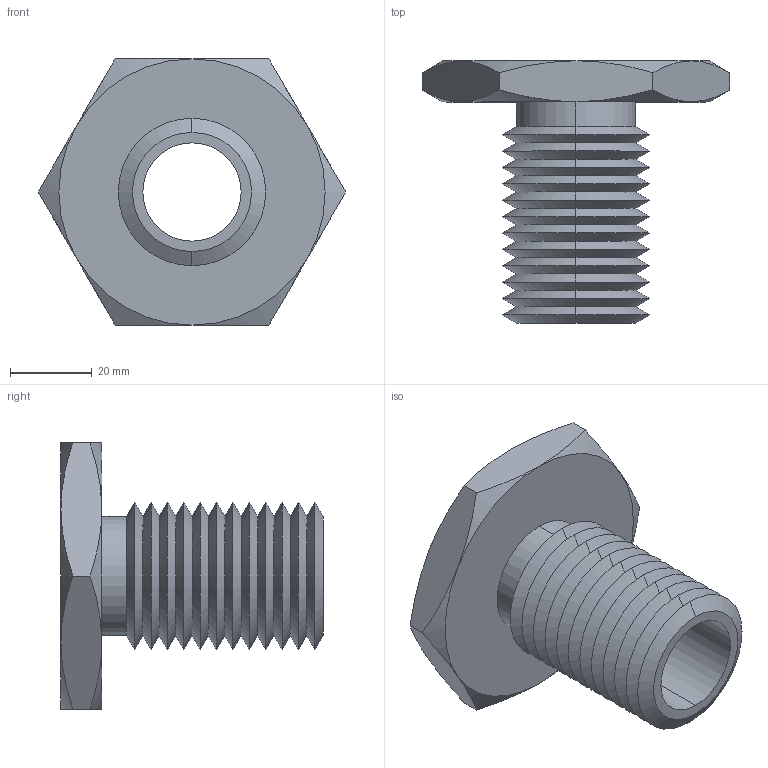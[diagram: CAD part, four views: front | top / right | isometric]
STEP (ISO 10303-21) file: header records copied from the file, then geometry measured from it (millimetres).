
FILE_DESCRIPTION (( 'STEP AP203' ), '1' );
FILE_NAME ('63302.W0036_M24x3.step', '2013-12-08T11:10:38', ( 'User' ), ( '' ), 'SwSTEP 2.0', 'SolidWorks 2009', '' );
FILE_SCHEMA (( 'CONFIG_CONTROL_DESIGN' ));
Length unit declared in the file: millimetre
Products named in the file (1): 63302.W0036_M24x3
Bounding box: 75.06 x 64 x 65 mm (x, y, z)
Volume: 50713.8 mm3; surface area: 23387.1 mm2
Topology: 1 solids, 1 shells, 75 faces, 154 edges, 82 vertices
Faces by surface type: cone 62, plane 9, cylinder 4
Entity records: 2139 total; most frequent: CARTESIAN_POINT 496, DIRECTION 352, ORIENTED_EDGE 308, EDGE_CURVE 154, AXIS2_PLACEMENT_3D 146, VERTEX_POINT 82, EDGE_LOOP 78, ADVANCED_FACE 75
